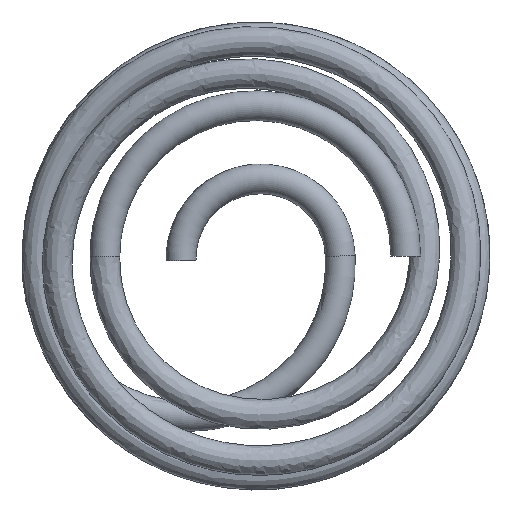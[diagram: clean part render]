
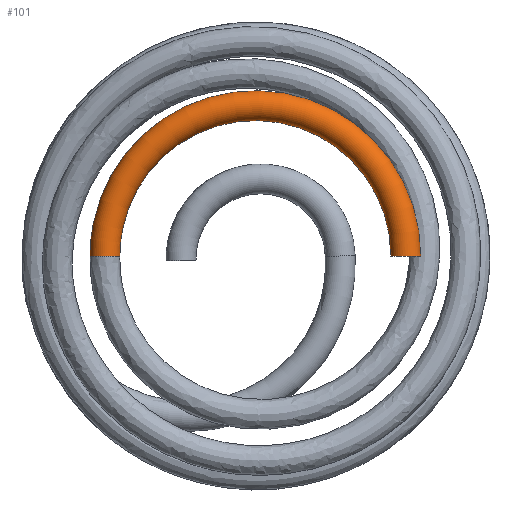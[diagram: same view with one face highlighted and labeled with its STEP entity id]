
A CAD part, left-side view. The second image highlights one B-rep face of the part: STEP entity #101.
In plain terms, the highlighted toroidal (fillet/blend) face has major radius 3.011 mm and minor radius 0.298 mm.
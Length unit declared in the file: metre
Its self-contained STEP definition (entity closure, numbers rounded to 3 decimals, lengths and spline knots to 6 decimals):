
#14=CIRCLE('',#114,0.000298);
#15=ORIENTED_EDGE('',*,*,#42,.T.);
#16=ORIENTED_EDGE('',*,*,#43,.T.);
#17=ORIENTED_EDGE('',*,*,#44,.F.);
#42=EDGE_CURVE('NONE',#57,#58,#66,.T.);
#43=EDGE_CURVE('NONE',#58,#57,#67,.T.);
#44=EDGE_CURVE('NONE',#59,#59,#14,.T.);
#57=VERTEX_POINT('',#140);
#58=VERTEX_POINT('',#141);
#59=VERTEX_POINT('',#148);
#66=B_SPLINE_CURVE_WITH_KNOTS('',3,(#135,#136,#137,#138,#139),
 .UNSPECIFIED.,.F.,.F.,(4,1,4),(0.,0.25,0.5),.UNSPECIFIED.);
#67=B_SPLINE_CURVE_WITH_KNOTS('',3,(#142,#143,#144,#145,#146),
 .UNSPECIFIED.,.F.,.F.,(4,1,4),(0.5,0.75,1.),.UNSPECIFIED.);
#80=EDGE_LOOP('',(#15,#16));
#81=EDGE_LOOP('',(#17));
#88=FACE_BOUND('',#80,.T.);
#89=FACE_BOUND('',#81,.T.);
#96=TOROIDAL_SURFACE('',#113,0.003011,0.000298);
#101=ADVANCED_FACE('NONE',(#88,#89),#96,.T.);
#113=AXIS2_PLACEMENT_3D('',#134,#121,#122);
#114=AXIS2_PLACEMENT_3D('',#147,#123,#124);
#121=DIRECTION('',(-1.,0.,0.));
#122=DIRECTION('',(0.,-1.,0.));
#123=DIRECTION('',(0.,0.,-1.));
#124=DIRECTION('',(0.,1.,0.));
#134=CARTESIAN_POINT('',(0.015581,-0.054403,0.006432));
#135=CARTESIAN_POINT('',(0.015581,-0.051093,0.006432));
#136=CARTESIAN_POINT('',(0.015425,-0.051093,0.006432));
#137=CARTESIAN_POINT('',(0.015141,-0.051392,0.006432));
#138=CARTESIAN_POINT('',(0.015425,-0.05169,0.006432));
#139=CARTESIAN_POINT('',(0.015581,-0.05169,0.006432));
#140=CARTESIAN_POINT('',(0.015581,-0.051093,0.006432));
#141=CARTESIAN_POINT('',(0.015581,-0.05169,0.006432));
#142=CARTESIAN_POINT('',(0.015581,-0.05169,0.006432));
#143=CARTESIAN_POINT('',(0.015737,-0.05169,0.006432));
#144=CARTESIAN_POINT('',(0.016022,-0.051392,0.006432));
#145=CARTESIAN_POINT('',(0.015737,-0.051093,0.006432));
#146=CARTESIAN_POINT('',(0.015581,-0.051093,0.006432));
#147=CARTESIAN_POINT('',(0.015581,-0.057414,0.006432));
#148=CARTESIAN_POINT('',(0.015581,-0.057115,0.006432));
